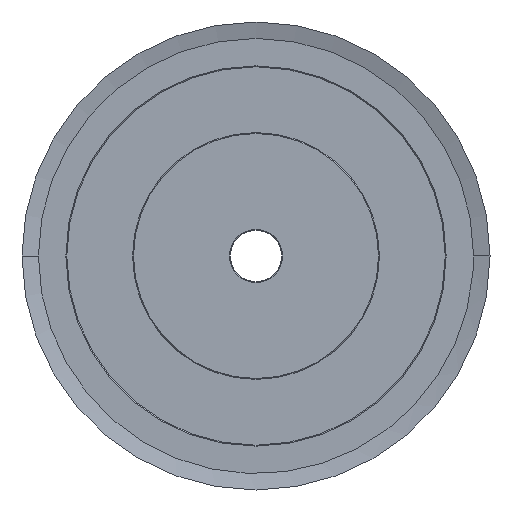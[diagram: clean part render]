
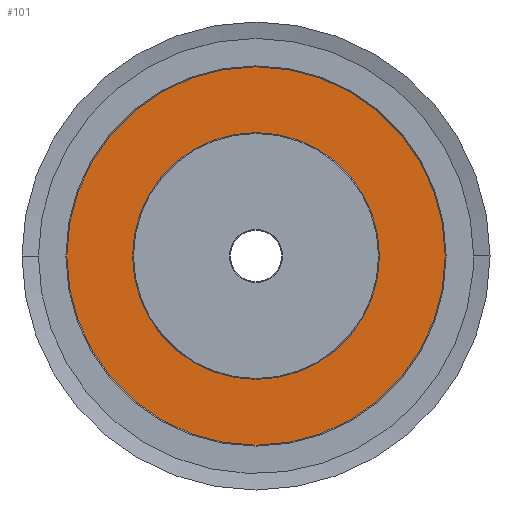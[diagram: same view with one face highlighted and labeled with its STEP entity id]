
A CAD part, left-side view. The second image highlights one B-rep face of the part: STEP entity #101.
In plain terms, the highlighted planar face has unit normal (-1, 0, 0).
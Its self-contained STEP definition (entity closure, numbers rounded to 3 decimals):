
#101=ADVANCED_FACE('',(#562,#563),#564,.T.);
#562=FACE_BOUND('',#1432,.T.);
#563=FACE_OUTER_BOUND('',#1433,.T.);
#564=PLANE('',#1434);
#1432=EDGE_LOOP('',(#2775,#2776));
#1433=EDGE_LOOP('',(#2777,#2778,#2779));
#1434=AXIS2_PLACEMENT_3D('',#2780,#2781,#2782);
#2775=ORIENTED_EDGE('',*,*,#6482,.T.);
#2776=ORIENTED_EDGE('',*,*,#6467,.T.);
#2777=ORIENTED_EDGE('',*,*,#6488,.F.);
#2778=ORIENTED_EDGE('',*,*,#6489,.F.);
#2779=ORIENTED_EDGE('',*,*,#6436,.F.);
#2780=CARTESIAN_POINT('',(28.0,0.0,0.0));
#2781=DIRECTION('',(-1.0,0.0,0.0));
#2782=DIRECTION('',(0.0,0.0,1.0));
#6436=EDGE_CURVE('',#8054,#8057,#8058,.T.);
#6467=EDGE_CURVE('',#8109,#8112,#8114,.T.);
#6482=EDGE_CURVE('',#8112,#8109,#8137,.T.);
#6488=EDGE_CURVE('',#8143,#8054,#8144,.T.);
#6489=EDGE_CURVE('',#8057,#8143,#8145,.T.);
#8054=VERTEX_POINT('',#12636);
#8057=VERTEX_POINT('',#12640);
#8058=CIRCLE('',#12641,103.5);
#8109=VERTEX_POINT('',#12705);
#8112=VERTEX_POINT('',#12709);
#8114=CIRCLE('',#12712,67.5);
#8137=CIRCLE('',#12741,67.5);
#8143=VERTEX_POINT('',#12747);
#8144=CIRCLE('',#12748,103.5);
#8145=CIRCLE('',#12749,103.5);
#12636=CARTESIAN_POINT('',(28.0,103.5,0.));
#12640=CARTESIAN_POINT('',(28.0,-103.5,0.));
#12641=AXIS2_PLACEMENT_3D('',#17178,#17179,#17180);
#12705=CARTESIAN_POINT('',(28.0,0.,-67.5));
#12709=CARTESIAN_POINT('',(28.0,0.,67.5));
#12712=AXIS2_PLACEMENT_3D('',#17241,#17242,#17243);
#12741=AXIS2_PLACEMENT_3D('',#17274,#17275,#17276);
#12747=CARTESIAN_POINT('',(28.0,0.0,-103.5));
#12748=AXIS2_PLACEMENT_3D('',#17292,#17293,#17294);
#12749=AXIS2_PLACEMENT_3D('',#17295,#17296,#17297);
#17178=CARTESIAN_POINT('',(28.0,0.0,0.0));
#17179=DIRECTION('',(1.0,0.0,0.0));
#17180=DIRECTION('',(0.0,1.0,0.0));
#17241=CARTESIAN_POINT('',(28.0,0.0,0.0));
#17242=DIRECTION('',(1.0,0.0,0.0));
#17243=DIRECTION('',(0.0,0.0,-1.0));
#17274=CARTESIAN_POINT('',(28.0,0.0,0.0));
#17275=DIRECTION('',(1.0,0.0,0.0));
#17276=DIRECTION('',(0.0,0.0,-1.0));
#17292=CARTESIAN_POINT('',(28.0,0.0,0.0));
#17293=DIRECTION('',(1.0,0.0,0.0));
#17294=DIRECTION('',(0.0,1.0,0.0));
#17295=CARTESIAN_POINT('',(28.0,0.0,0.0));
#17296=DIRECTION('',(1.0,0.0,0.0));
#17297=DIRECTION('',(0.0,1.0,0.0));
